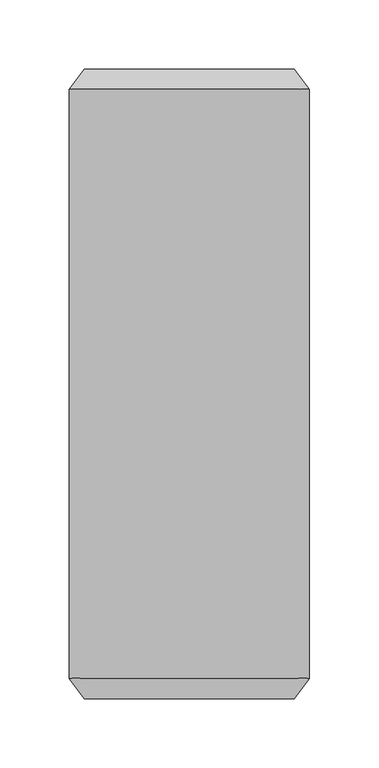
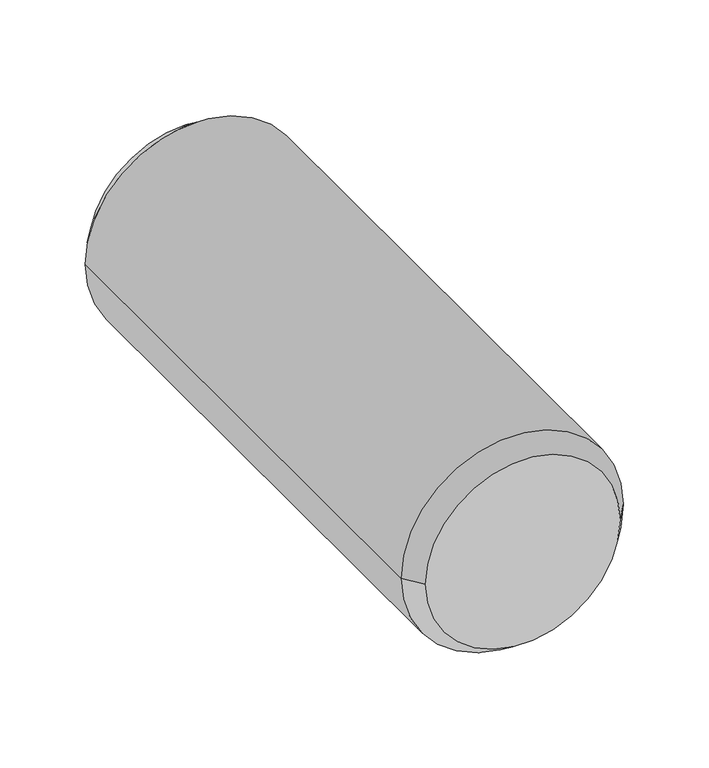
"""IFC4 building model written with IfcOpenShell, lengths in millimetres: furniture geometry, Steelcase Coalesse - Evaneau - Seating - Arm Pillow and Bolster : Bolster Arm."""

from ifc_helpers import new_model, si_unit, frame, origin, place, context, project, spatial, polyline, circle_curve, source, transform, mapped, element, save
from ifc_brep_helpers import plane_surface, cylinder_surface, revolved_surface, advanced_brep


def furniture_1f1e9e6e(model_context):
    return source(origin(), model_context, "Body", "AdvancedBrep", [
        advanced_brep(
        [(-573.3346526, 654.8786565, 517.4583102), (-573.3346526, 230.5536847, 517.4583102), (-400.6146526, 230.5536847, 517.4583102), (-400.6146526, 654.8786565, 517.4583102), (-411.4800164, 216.0949743, 517.4583102), (-562.4692888, 216.0949743, 517.4583102), (-411.4800164, 669.337367, 517.4583102), (-562.4692888, 669.337367, 517.4583102)],
        [
            (0, 1),
            (1, 2, circle_curve(frame((-486.9746526, 230.5536847, 517.4583102), z_axis=(0.0, 1.0, 0.0), x_axis=(1.0, 0.0, 0.0)), 86.36)),
            (2, 3),
            (3, 0, circle_curve(frame((-486.9746526, 654.8786565, 517.4583102), z_axis=(0.0, -1.0, 0.0), x_axis=(1.0, 0.0, 0.0)), 86.36)),
            (0, 3, circle_curve(frame((-486.9746526, 654.8786565, 517.4583102), z_axis=(0.0, -1.0, 0.0), x_axis=(1.0, 0.0, 0.0)), 86.36)),
            (2, 1, circle_curve(frame((-486.9746526, 230.5536847, 517.4583102), z_axis=(0.0, 1.0, 0.0), x_axis=(1.0, 0.0, 0.0)), 86.36)),
            (4, 5, circle_curve(frame((-486.9746526, 216.0949743, 517.4583102), z_axis=(0.0, -1.0, 0.0), x_axis=(1.0, 0.0, 0.0)), 75.4946362)),
            (5, 4, circle_curve(frame((-486.9746526, 216.0949743, 517.4583102), z_axis=(0.0, -1.0, 0.0), x_axis=(-1.0, 0.0, 0.0)), 75.4946362)),
            (4, 2),
            (1, 5),
            (6, 7, circle_curve(frame((-486.9746526, 669.337367, 517.4583102), z_axis=(0.0, 1.0, 0.0), x_axis=(1.0, 0.0, 0.0)), 75.4946362)),
            (7, 6, circle_curve(frame((-486.9746526, 669.337367, 517.4583102), z_axis=(0.0, 1.0, 0.0), x_axis=(-1.0, 0.0, 0.0)), 75.4946362)),
            (6, 3),
            (0, 7),
        ],
        [
            cylinder_surface(frame((-486.9746526, 230.5536847, 517.4583102), z_axis=(0.0, 1.0, 0.0), x_axis=(1.0, 0.0, 0.0)), 86.36),
            plane_surface(frame((-486.9746526, 216.0949743, 517.4583102), z_axis=(0.0, -1.0, 0.0), x_axis=(0.0, 0.0, 1.0))),
            revolved_surface(polyline([(-411.48001636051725, 216.0949743, 517.4583102), (-400.6146526, 230.5536847, 517.4583102)]), (-486.9746526, 115.6330748, 517.4583102), (0.0, 1.0, 0.0)),
            revolved_surface(polyline([(-562.4692888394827, 216.0949743, 517.4583102), (-573.3346526, 230.5536847, 517.4583102)]), (-486.9746526, 115.6330748, 517.4583102), (0.0, 1.0, 0.0)),
            plane_surface(frame((-486.9746526, 669.337367, 517.4583102), z_axis=(0.0, 1.0, 0.0), x_axis=(0.0, 0.0, -1.0))),
            revolved_surface(polyline([(-411.48001643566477, 669.337367, 517.4583102), (-400.6146526, 654.8786565, 517.4583102)]), (-486.9746526, 769.7992664, 517.4583102), (0.0, -1.0, 0.0)),
            revolved_surface(polyline([(-562.4692887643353, 669.337367, 517.4583102), (-573.3346526, 654.8786565, 517.4583102)]), (-486.9746526, 769.7992664, 517.4583102), (0.0, -1.0, 0.0)),
        ],
        [
            (0, [[1, 2, 3, 4]]),
            (0, [[-1, 5, -3, 6]]),
            (1, [[7, 8]]),
            (2, [[-7, 9, -2, 10]]),
            (3, [[-8, -10, -6, -9]]),
            (4, [[11, 12]]),
            (5, [[-11, 13, -5, 14]]),
            (6, [[-12, -14, -4, -13]]),
        ],
    ),
    ])


if __name__ == "__main__":
    model = new_model("IFC4")
    model_context = context("Model", 3, world=origin())
    ifc_project = project(units=[si_unit("LENGTHUNIT", "METRE", prefix="MILLI")], contexts=[model_context])
    site = spatial("IfcSite", under=ifc_project)
    building = spatial("IfcBuilding", under=site)
    placement = place(None, origin())
    furniture_shape = furniture_1f1e9e6e(model_context)
    element("IfcFurniture", 1, ObjectType="Steelcase Coalesse - Evaneau - Seating - Arm Pillow and Bolster : Bolster Arm", at=placement, inside=building, context=model_context, shape_type="MappedRepresentation", body=[
        mapped(furniture_shape, transform((0.0, 0.0, 0.0), x_axis=(1.0, 0.0, 0.0), y_axis=(0.0, 1.0, 0.0), z_axis=(0.0, 0.0, 1.0))),
    ])
    save(model, "model.ifc")
